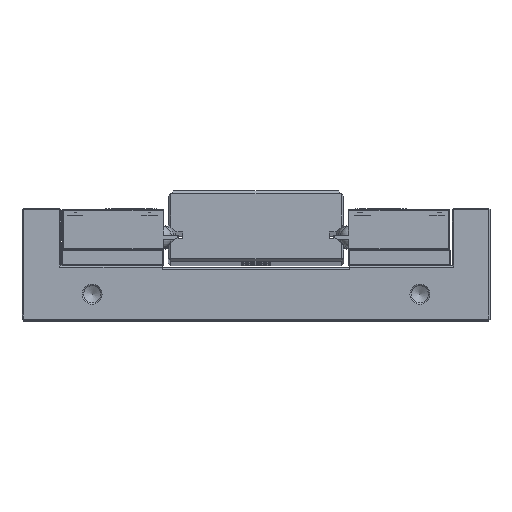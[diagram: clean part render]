
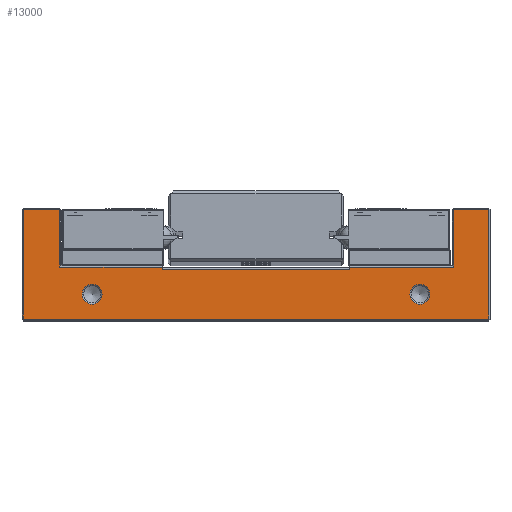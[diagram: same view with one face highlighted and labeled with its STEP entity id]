
A CAD part, top view. The second image highlights one B-rep face of the part: STEP entity #13000.
In plain terms, the highlighted planar face has unit normal (0, 0, 1).
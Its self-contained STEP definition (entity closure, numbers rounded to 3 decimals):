
#442=FACE_BOUND('',#2311,.T.);
#443=FACE_BOUND('',#2312,.T.);
#883=PLANE('',#14129);
#1505=FACE_OUTER_BOUND('',#2310,.T.);
#2310=EDGE_LOOP('',(#10651,#10652,#10653,#10654,#10655,#10656,#10657,#10658,
#10659,#10660,#10661,#10662));
#2311=EDGE_LOOP('',(#10663));
#2312=EDGE_LOOP('',(#10664));
#3354=LINE('',#21746,#4417);
#3392=LINE('',#21865,#4455);
#3393=LINE('',#21868,#4456);
#3395=LINE('',#21872,#4458);
#3396=LINE('',#21874,#4459);
#3397=LINE('',#21876,#4460);
#3398=LINE('',#21878,#4461);
#3399=LINE('',#21880,#4462);
#3400=LINE('',#21882,#4463);
#3401=LINE('',#21884,#4464);
#3402=LINE('',#21885,#4465);
#3403=LINE('',#21886,#4466);
#4417=VECTOR('',#16811,10.);
#4455=VECTOR('',#16941,10.);
#4456=VECTOR('',#16944,10.);
#4458=VECTOR('',#16948,10.);
#4459=VECTOR('',#16949,10.);
#4460=VECTOR('',#16950,10.);
#4461=VECTOR('',#16951,10.);
#4462=VECTOR('',#16952,10.);
#4463=VECTOR('',#16953,10.);
#4464=VECTOR('',#16954,10.);
#4465=VECTOR('',#16955,10.);
#4466=VECTOR('',#16956,10.);
#5029=CIRCLE('',#14130,3.824);
#5030=CIRCLE('',#14131,3.824);
#6007=VERTEX_POINT('',#21743);
#6008=VERTEX_POINT('',#21745);
#6042=VERTEX_POINT('',#21861);
#6043=VERTEX_POINT('',#21863);
#6044=VERTEX_POINT('',#21867);
#6045=VERTEX_POINT('',#21871);
#6046=VERTEX_POINT('',#21873);
#6047=VERTEX_POINT('',#21875);
#6048=VERTEX_POINT('',#21877);
#6049=VERTEX_POINT('',#21879);
#6050=VERTEX_POINT('',#21881);
#6051=VERTEX_POINT('',#21883);
#6052=VERTEX_POINT('',#21887);
#6053=VERTEX_POINT('',#21889);
#7588=EDGE_CURVE('',#6008,#6007,#3354,.T.);
#7648=EDGE_CURVE('',#6043,#6042,#3392,.T.);
#7649=EDGE_CURVE('',#6044,#6042,#3393,.T.);
#7651=EDGE_CURVE('',#6045,#6043,#3395,.T.);
#7652=EDGE_CURVE('',#6046,#6045,#3396,.T.);
#7653=EDGE_CURVE('',#6047,#6046,#3397,.T.);
#7654=EDGE_CURVE('',#6048,#6047,#3398,.T.);
#7655=EDGE_CURVE('',#6049,#6048,#3399,.T.);
#7656=EDGE_CURVE('',#6050,#6049,#3400,.T.);
#7657=EDGE_CURVE('',#6051,#6050,#3401,.T.);
#7658=EDGE_CURVE('',#6008,#6051,#3402,.T.);
#7659=EDGE_CURVE('',#6044,#6007,#3403,.T.);
#7660=EDGE_CURVE('',#6052,#6052,#5029,.T.);
#7661=EDGE_CURVE('',#6053,#6053,#5030,.T.);
#10651=ORIENTED_EDGE('',*,*,#7648,.F.);
#10652=ORIENTED_EDGE('',*,*,#7651,.F.);
#10653=ORIENTED_EDGE('',*,*,#7652,.F.);
#10654=ORIENTED_EDGE('',*,*,#7653,.F.);
#10655=ORIENTED_EDGE('',*,*,#7654,.F.);
#10656=ORIENTED_EDGE('',*,*,#7655,.F.);
#10657=ORIENTED_EDGE('',*,*,#7656,.F.);
#10658=ORIENTED_EDGE('',*,*,#7657,.F.);
#10659=ORIENTED_EDGE('',*,*,#7658,.F.);
#10660=ORIENTED_EDGE('',*,*,#7588,.T.);
#10661=ORIENTED_EDGE('',*,*,#7659,.F.);
#10662=ORIENTED_EDGE('',*,*,#7649,.T.);
#10663=ORIENTED_EDGE('',*,*,#7660,.F.);
#10664=ORIENTED_EDGE('',*,*,#7661,.F.);
#13000=ADVANCED_FACE('',(#1505,#442,#443),#883,.T.);
#14129=AXIS2_PLACEMENT_3D('',#21870,#16946,#16947);
#14130=AXIS2_PLACEMENT_3D('',#21888,#16957,#16958);
#14131=AXIS2_PLACEMENT_3D('',#21890,#16959,#16960);
#16811=DIRECTION('',(0.,-1.,0.));
#16941=DIRECTION('',(1.,0.,0.));
#16944=DIRECTION('',(0.,1.,0.));
#16946=DIRECTION('center_axis',(0.,0.,
1.));
#16947=DIRECTION('ref_axis',(1.,0.,0.));
#16948=DIRECTION('',(0.,-1.,0.));
#16949=DIRECTION('',(1.,0.,0.));
#16950=DIRECTION('',(0.,1.,0.));
#16951=DIRECTION('',(-1.,0.,0.));
#16952=DIRECTION('',(0.,-1.,0.));
#16953=DIRECTION('',(1.,0.,0.));
#16954=DIRECTION('',(0.,1.,0.));
#16955=DIRECTION('',(1.,0.,0.));
#16956=DIRECTION('',(1.,0.,0.));
#16957=DIRECTION('center_axis',(0.,0.,
1.));
#16958=DIRECTION('ref_axis',(-1.,0.,0.));
#16959=DIRECTION('center_axis',(0.,0.,
1.));
#16960=DIRECTION('ref_axis',(-1.,0.,0.));
#21743=CARTESIAN_POINT('',(27.11,-21.38,59.754));
#21745=CARTESIAN_POINT('',(27.11,-20.58,59.754));
#21746=CARTESIAN_POINT('',(27.11,-20.08,59.754));
#21861=CARTESIAN_POINT('',(-44.89,-20.58,59.754));
#21863=CARTESIAN_POINT('',(-84.39,-20.58,59.754));
#21865=CARTESIAN_POINT('',(-26.89,-20.58,59.754));
#21867=CARTESIAN_POINT('',(-44.89,-21.38,59.754));
#21868=CARTESIAN_POINT('',(-44.89,-20.88,59.754));
#21870=CARTESIAN_POINT('Origin',(-8.89,-19.58,59.754));
#21871=CARTESIAN_POINT('',(-84.39,1.42,59.754));
#21872=CARTESIAN_POINT('',(-84.39,-19.83,59.754));
#21873=CARTESIAN_POINT('',(-98.39,1.42,59.754));
#21874=CARTESIAN_POINT('',(-46.39,1.42,59.754));
#21875=CARTESIAN_POINT('',(-98.39,-40.58,59.754));
#21876=CARTESIAN_POINT('',(-98.39,-8.83,59.754));
#21877=CARTESIAN_POINT('',(80.61,-40.58,59.754));
#21878=CARTESIAN_POINT('',(-53.89,-40.58,59.754));
#21879=CARTESIAN_POINT('',(80.61,1.42,59.754));
#21880=CARTESIAN_POINT('',(80.61,-30.33,59.754));
#21881=CARTESIAN_POINT('',(67.11,1.42,59.754));
#21882=CARTESIAN_POINT('',(36.11,1.42,59.754));
#21883=CARTESIAN_POINT('',(67.11,-20.58,59.754));
#21884=CARTESIAN_POINT('',(67.11,-8.83,59.754));
#21885=CARTESIAN_POINT('',(28.86,-20.58,59.754));
#21886=CARTESIAN_POINT('',(9.11,-21.38,59.754));
#21887=CARTESIAN_POINT('',(57.933,-31.08,59.754));
#21888=CARTESIAN_POINT('Origin',(54.11,-31.08,59.754));
#21889=CARTESIAN_POINT('',(-68.067,-31.08,59.754));
#21890=CARTESIAN_POINT('Origin',(-71.89,-31.08,59.754));
